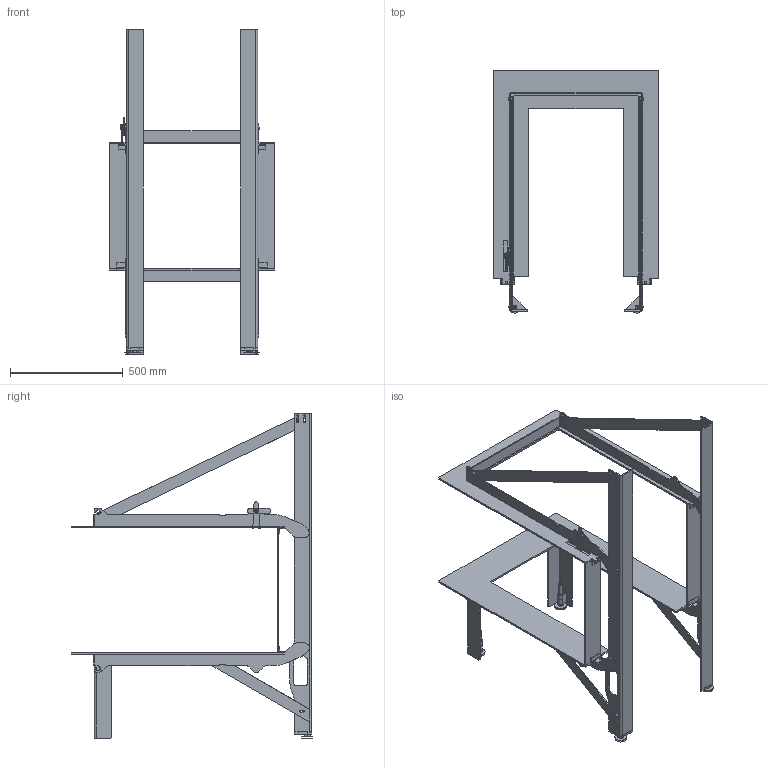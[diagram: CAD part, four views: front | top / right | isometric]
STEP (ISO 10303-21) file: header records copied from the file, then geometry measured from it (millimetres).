
FILE_DESCRIPTION(/* description */ (''),/* implementation_level */ '2;1');
FILE_NAME(/* name */ 'C:\ADSK_DM_WS\CAD_3D\03 Geraete\RIII 55x56x80\Zeichnungen\RIII 55x56x80 Einbaurahmen freistehend CAD Planung defriten 2017-03215 190919.stp',/* time_stamp */ '2019-09-19T11:35:08+02:00',/* author */ ('cpi'),/* organization */ (''),/* preprocessor_version */ 'ST-DEVELOPER v17.2',/* originating_system */ 'Autodesk Inventor 2019',/* authorisation */ '');
FILE_SCHEMA (('AUTOMOTIVE_DESIGN { 1 0 10303 214 3 1 1 }'));
Length unit declared in the file: millimetre
Products named in the file (1): 2019-02757
Bounding box: 735 x 1071.44 x 1443.5 mm (x, y, z)
Volume: 10504562.4 mm3; surface area: 3404447 mm2
Topology: 5 solids, 5 shells, 1029 faces, 2909 edges, 1870 vertices
Faces by surface type: plane 557, cylinder 404, cone 68
Full cylindrical faces by diameter (mm): 10 x5, 10.21 x2, 10.4 x1, 10.5 x15, 16 x6, 17 x2, 20 x2, 25 x2, 30 x4
Entity records: 34775 total; most frequent: CARTESIAN_POINT 6513, ORIENTED_EDGE 5818, DIRECTION 5797, EDGE_CURVE 2909, AXIS2_PLACEMENT_3D 2026, VERTEX_POINT 1870, LINE 1745, VECTOR 1745
